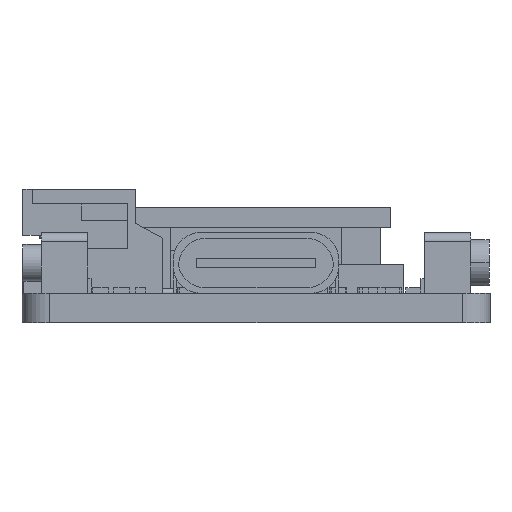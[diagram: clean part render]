
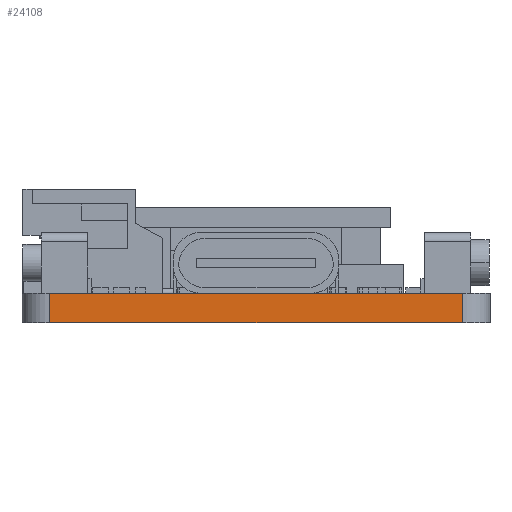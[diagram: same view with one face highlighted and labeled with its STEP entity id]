
A CAD part, left-side view. The second image highlights one B-rep face of the part: STEP entity #24108.
In plain terms, the highlighted planar face has unit normal (-1, 0, 0).
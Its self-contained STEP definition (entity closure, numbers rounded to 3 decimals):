
#542 = VECTOR ( 'NONE', #6581, 1000. ) ;
#2113 = EDGE_CURVE ( 'NONE', #40395, #19806, #23529, .T. ) ;
#4685 = ORIENTED_EDGE ( 'NONE', *, *, #27601, .F. ) ;
#4899 = LINE ( 'NONE', #35042, #24433 ) ;
#5516 = EDGE_CURVE ( 'NONE', #18528, #13898, #4899, .T. ) ;
#5539 = CARTESIAN_POINT ( 'NONE',  ( -28.187, 15.28, 1.5 ) ) ;
#6581 = DIRECTION ( 'NONE',  ( 0., 0., 1. ) ) ;
#6701 = CARTESIAN_POINT ( 'NONE',  ( -28.187, -8.52, -0.1 ) ) ;
#7396 = EDGE_LOOP ( 'NONE', ( #20872, #43439, #32107, #12253, #4685, #23680 ) ) ;
#7407 = EDGE_CURVE ( 'NONE', #42071, #18528, #24895, .T. ) ;
#8330 = LINE ( 'NONE', #17714, #13128 ) ;
#8474 = DIRECTION ( 'NONE',  ( 0., -1., 0. ) ) ;
#10845 = CARTESIAN_POINT ( 'NONE',  ( -28.187, 15.28, 1.5 ) ) ;
#10868 = VECTOR ( 'NONE', #24535, 1000. ) ;
#11881 = AXIS2_PLACEMENT_3D ( 'NONE', #5539, #12687, #26278 ) ;
#12253 = ORIENTED_EDGE ( 'NONE', *, *, #2113, .T. ) ;
#12687 = DIRECTION ( 'NONE',  ( 1., 0., 0. ) ) ;
#13128 = VECTOR ( 'NONE', #24844, 1000. ) ;
#13898 = VERTEX_POINT ( 'NONE', #39988 ) ;
#16021 = FACE_OUTER_BOUND ( 'NONE', #7396, .T. ) ;
#17714 = CARTESIAN_POINT ( 'NONE',  ( -28.187, 13.83, -0.1 ) ) ;
#18528 = VERTEX_POINT ( 'NONE', #43555 ) ;
#19529 = EDGE_CURVE ( 'NONE', #42071, #30381, #8330, .T. ) ;
#19806 = VERTEX_POINT ( 'NONE', #27260 ) ;
#20872 = ORIENTED_EDGE ( 'NONE', *, *, #7407, .F. ) ;
#21445 = VECTOR ( 'NONE', #27787, 1000. ) ;
#23529 = LINE ( 'NONE', #36935, #542 ) ;
#23581 = CARTESIAN_POINT ( 'NONE',  ( -28.187, 13.83, -0.1 ) ) ;
#23680 = ORIENTED_EDGE ( 'NONE', *, *, #5516, .F. ) ;
#24108 = ADVANCED_FACE ( 'NONE', ( #16021 ), #33417, .F. ) ;
#24433 = VECTOR ( 'NONE', #8474, 1000. ) ;
#24535 = DIRECTION ( 'NONE',  ( 0., 1., 0. ) ) ;
#24844 = DIRECTION ( 'NONE',  ( 0., 0., -1. ) ) ;
#24895 = LINE ( 'NONE', #42308, #32084 ) ;
#26278 = DIRECTION ( 'NONE',  ( 0., 1., 0. ) ) ;
#27260 = CARTESIAN_POINT ( 'NONE',  ( -28.187, -8.57, 1.5 ) ) ;
#27601 = EDGE_CURVE ( 'NONE', #13898, #19806, #41195, .T. ) ;
#27787 = DIRECTION ( 'NONE',  ( 0., -1., 0. ) ) ;
#30302 = CARTESIAN_POINT ( 'NONE',  ( -28.187, 13.83, 1.5 ) ) ;
#30381 = VERTEX_POINT ( 'NONE', #23581 ) ;
#31181 = EDGE_CURVE ( 'NONE', #40395, #30381, #37934, .T. ) ;
#32084 = VECTOR ( 'NONE', #32244, 1000. ) ;
#32107 = ORIENTED_EDGE ( 'NONE', *, *, #31181, .F. ) ;
#32244 = DIRECTION ( 'NONE',  ( 0., -1., 0. ) ) ;
#33417 = PLANE ( 'NONE',  #11881 ) ;
#35042 = CARTESIAN_POINT ( 'NONE',  ( -28.187, 15.28, 1.5 ) ) ;
#36379 = CARTESIAN_POINT ( 'NONE',  ( -28.187, -8.57, -0.1 ) ) ;
#36935 = CARTESIAN_POINT ( 'NONE',  ( -28.187, -8.57, 1.5 ) ) ;
#37934 = LINE ( 'NONE', #6701, #10868 ) ;
#39988 = CARTESIAN_POINT ( 'NONE',  ( -28.187, -0.37, 1.5 ) ) ;
#40395 = VERTEX_POINT ( 'NONE', #36379 ) ;
#41195 = LINE ( 'NONE', #10845, #21445 ) ;
#42071 = VERTEX_POINT ( 'NONE', #30302 ) ;
#42308 = CARTESIAN_POINT ( 'NONE',  ( -28.187, 15.28, 1.5 ) ) ;
#43439 = ORIENTED_EDGE ( 'NONE', *, *, #19529, .T. ) ;
#43555 = CARTESIAN_POINT ( 'NONE',  ( -28.187, 5.63, 1.5 ) ) ;
